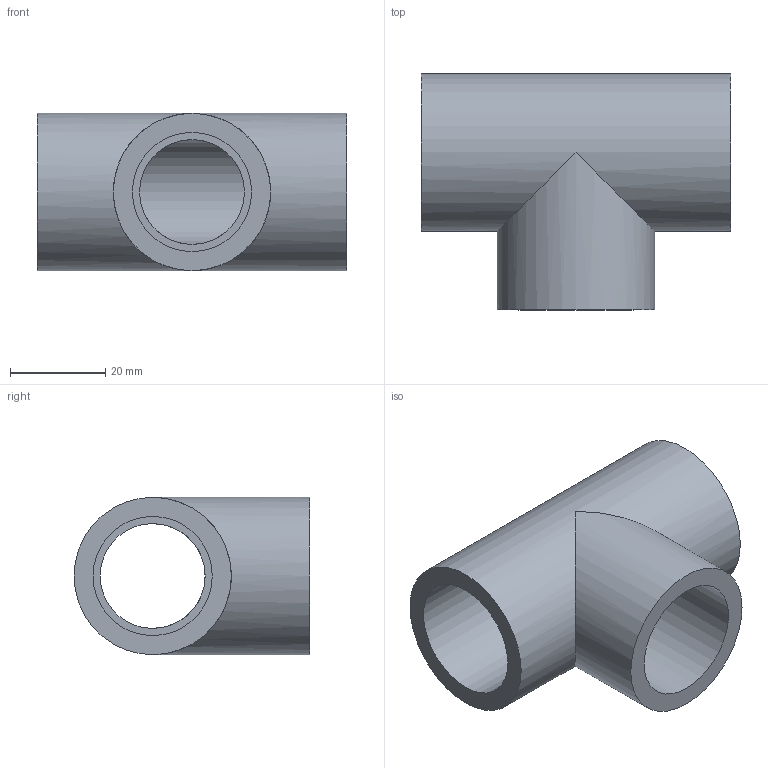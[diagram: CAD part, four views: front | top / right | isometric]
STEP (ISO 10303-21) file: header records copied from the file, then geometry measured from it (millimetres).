
FILE_DESCRIPTION(/* description */ ('PVC ti a 90° incollaggio metrico'),/* implementation_level */ '2;1');
FILE_NAME(/* name */ 'C:\Users\POLYPIPE\Desktop\DATASET INVENTOR\LIBRERIA EFFAST\RACCORDI 3DxWEB\RDR\3D_RDRTID\3D_RDRTID0250.stp',/* time_stamp */ '2018-01-19T15:37:51+01:00',/* author */ ('POLYPIPE'),/* organization */ ('Polypipe Italia s.r.l.'),/* preprocessor_version */ 'ST-DEVELOPER v16.1',/* originating_system */ 'Autodesk Inventor 2016',/* authorisation */ '');
FILE_SCHEMA (('CONFIG_CONTROL_DESIGN'));
Length unit declared in the file: millimetre
Products named in the file (1): 3D_RDRTID
Bounding box: 65 x 49.5 x 33 mm (x, y, z)
Volume: 31824.4 mm3; surface area: 15749.9 mm2
Topology: 1 solids, 1 shells, 13 faces, 25 edges, 18 vertices
Faces by surface type: cylinder 7, plane 6
Full cylindrical faces by diameter (mm): 22 x2, 25 x3, 33 x2
Entity records: 326 total; most frequent: DIRECTION 60, CARTESIAN_POINT 46, ORIENTED_EDGE 32, AXIS2_PLACEMENT_3D 30, EDGE_LOOP 28, VERTEX_POINT 16, EDGE_CURVE 16, FACE_BOUND 15
